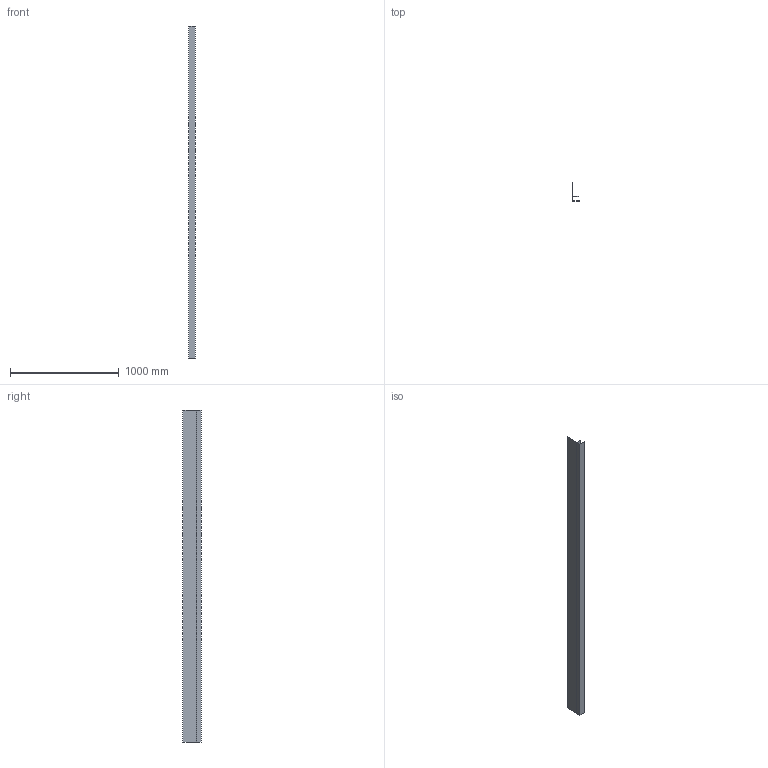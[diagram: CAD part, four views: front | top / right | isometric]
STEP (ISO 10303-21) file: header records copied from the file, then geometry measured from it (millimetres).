
FILE_DESCRIPTION (( 'STEP AP203' ), '1' );
FILE_NAME ('M40B.STEP', '2018-06-18T17:37:52', ( 'Michael Moliner' ), ( '' ), 'SwSTEP 2.0', 'SolidWorks 2018', '' );
FILE_SCHEMA (( 'CONFIG_CONTROL_DESIGN' ));
Length unit declared in the file: inch
Products named in the file (2): M40B
Bounding box: 64.01 x 167.07 x 3048 mm (x, y, z)
Volume: 512986.9 mm3; surface area: 2023067 mm2
Topology: 1 solids, 1 shells, 22 faces, 60 edges, 40 vertices
Faces by surface type: plane 16, cylinder 6
Entity records: 853 total; most frequent: CARTESIAN_POINT 124, DIRECTION 120, ORIENTED_EDGE 120, EDGE_CURVE 60, LINE 48, VECTOR 48, VERTEX_POINT 40, AXIS2_PLACEMENT_3D 36
